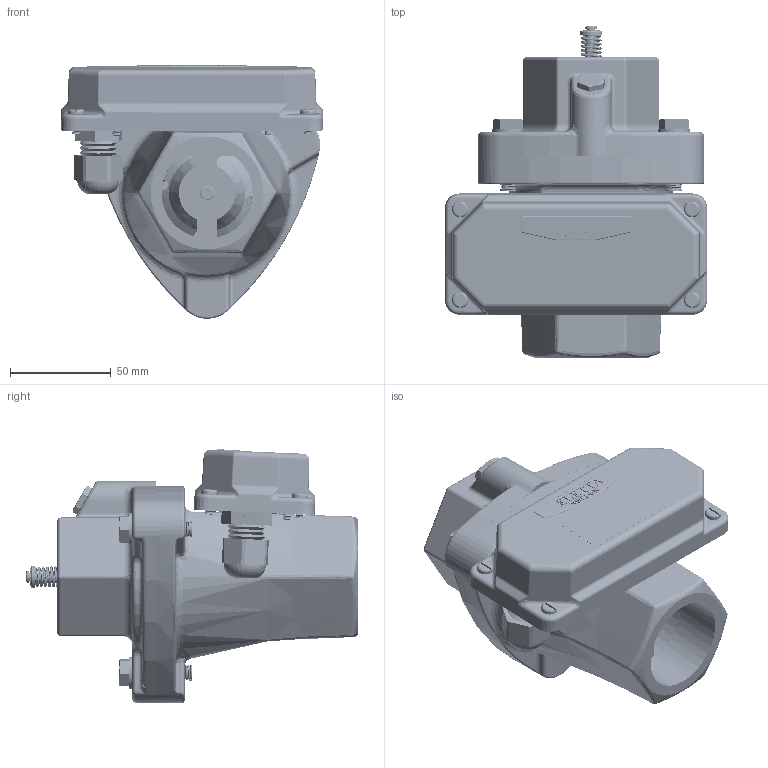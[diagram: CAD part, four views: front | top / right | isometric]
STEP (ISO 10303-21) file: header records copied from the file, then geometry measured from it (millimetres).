
FILE_DESCRIPTION (( 'STEP AP214' ), '1' );
FILE_NAME ('SP-GA.STEP', '2021-05-17T11:52:21', ( '' ), ( '' ), 'SwSTEP 2.0', 'SolidWorks 2018', '' );
FILE_SCHEMA (( 'AUTOMOTIVE_DESIGN' ));
Length unit declared in the file: millimetre
Products named in the file (64): 40-93023; 40-90052_09340F  4075-mattssons; 40-91047; 40-70023-1; 40-93025; 40-93035; 40-91048; 40-70022; 40-93019; 40-90015_00852   4 10-mattssons; 40-90040_BRB0323_BUFAB; 40-92005; 40-50005-2; 40-94080; 40-92088; 40-90014_00854   4  6-mattssons; 40-93219; SP-GA; 40-92004; 40-93031; 40-70024; 40-93017; 40-90008_79852   3 14-mattssons; 40-90060; 40-93005-1; 40-90017_09632   5  8-mattssons; 40-50003-2; 40-50019; 40-93024; 40-93004; 40-93013-2; 40-50018; 40-93027; 40-94019; 40-90016_00842   4 16-mattssons; 40-94014; 40-93033; 40-94022; 40-93047-2; 40-91005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
Assembly tree (82 placements, depth 5):
  SP-GA
    40-92089
    40-92088
    40-50006-1
      40-70023-1
        40-93005-1
        40-70022
          40-90009
          40-90014_00854   4  6-mattssons
          40-90040_BRB0323_BUFAB  x2
          40-90051
          40-91005
          40-91016
          40-93096_00944   2  8-mattssons
        40-90008_79852   3 14-mattssons  x4
        40-90014_00854   4  6-mattssons
        40-90017_09632   5  8-mattssons  x3
        40-90041
        40-91020-1
        40-93173
        40-91047
        40-91048
      40-70024
        40-93004
        40-90015_00852   4 10-mattssons  x4
        40-93065
        40-94019
      40-93219
    40-50018
      40-93025
      40-93026
      40-93028
      40-93030
      40-91006_Komprimerad
      40-90016_00842   4 16-mattssons
    40-50019
      40-93024
      40-92004
      40-92005
      40-93023
      40-50005-2
        40-93017
        40-90015_00852   4 10-mattssons
        40-93013-2
        40-93019  x2
      40-93029  x2
      40-91007
    40-50003-2
      40-93031
      40-93034
      40-93036
      40-93047-2
      40-90052_09340F  4075-mattssons
      40-93037
      40-93035
    40-93033
    40-90007_00852   3 10-mattssons  x3
    40-90046_01254H 84-mattssons  x3
    40-94002
    40-94014
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Bounding box: 130 x 164.6 x 125.74 mm (x, y, z)
Volume: 452774.9 mm3; surface area: 226026 mm2
Topology: 76 solids, 80 shells, 6983 faces, 17300 edges, 10519 vertices
Faces by surface type: cylinder 1747, cone 1554, plane 1526, torus 1400, bspline 713, sphere 43
Entity records: 242457 total; most frequent: CARTESIAN_POINT 134408, ORIENTED_EDGE 21978, DIRECTION 20118, EDGE_CURVE 10995, AXIS2_PLACEMENT_3D 7782, VERTEX_POINT 6784, EDGE_LOOP 4681, LINE 4554
